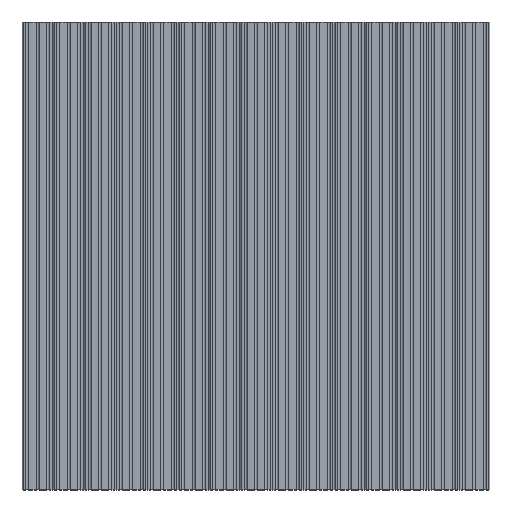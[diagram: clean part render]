
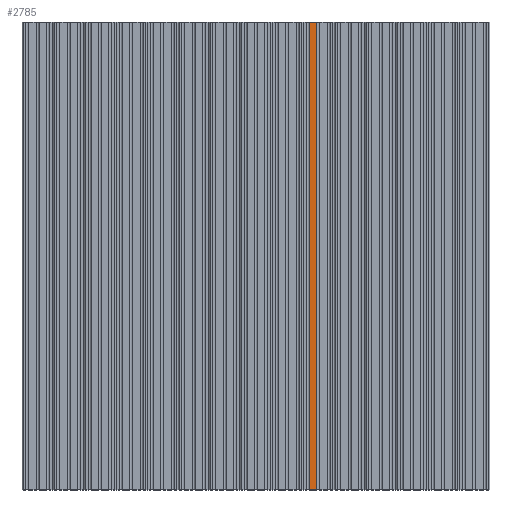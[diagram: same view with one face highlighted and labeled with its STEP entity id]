
A CAD part, top view. The second image highlights one B-rep face of the part: STEP entity #2785.
In plain terms, the highlighted planar face has unit normal (0, 0, 1).
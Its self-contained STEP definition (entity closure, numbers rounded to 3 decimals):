
#2785=ADVANCED_FACE('',(#3355),#3103,.T.);
#3103=PLANE('',#8780);
#3355=FACE_OUTER_BOUND('',#3685,.T.);
#3685=EDGE_LOOP('',(#4211,#4212,#4213,#4214));
#4211=ORIENTED_EDGE('',*,*,#6491,.F.);
#4212=ORIENTED_EDGE('',*,*,#6492,.F.);
#4213=ORIENTED_EDGE('',*,*,#6493,.T.);
#4214=ORIENTED_EDGE('',*,*,#6494,.T.);
#5851=VERTEX_POINT('',#11210);
#5852=VERTEX_POINT('',#11211);
#5853=VERTEX_POINT('',#11213);
#5854=VERTEX_POINT('',#11215);
#6491=EDGE_CURVE('',#5851,#5852,#7367,.T.);
#6492=EDGE_CURVE('',#5853,#5851,#7368,.T.);
#6493=EDGE_CURVE('',#5853,#5854,#7369,.T.);
#6494=EDGE_CURVE('',#5854,#5852,#7370,.T.);
#7367=LINE('',#11209,#8087);
#7368=LINE('',#11212,#8088);
#7369=LINE('',#11214,#8089);
#7370=LINE('',#11216,#8090);
#8087=VECTOR('',#9456,1.);
#8088=VECTOR('',#9457,1.);
#8089=VECTOR('',#9458,1.);
#8090=VECTOR('',#9459,1.);
#8780=AXIS2_PLACEMENT_3D('',#11217,#9460,#9461);
#9456=DIRECTION('',(-1.,0.,0.));
#9457=DIRECTION('',(0.,-1.,0.));
#9458=DIRECTION('',(-1.,0.,0.));
#9459=DIRECTION('',(0.,-1.,0.));
#9460=DIRECTION('',(0.,0.,1.));
#9461=DIRECTION('',(1.,0.,0.));
#11209=CARTESIAN_POINT('',(117.25,0.,0.));
#11210=CARTESIAN_POINT('',(117.25,0.,0.));
#11211=CARTESIAN_POINT('',(102.75,0.,0.));
#11212=CARTESIAN_POINT('',(117.25,900.,0.));
#11213=CARTESIAN_POINT('',(117.25,900.,0.));
#11214=CARTESIAN_POINT('',(117.25,900.,0.));
#11215=CARTESIAN_POINT('',(102.75,900.,0.));
#11216=CARTESIAN_POINT('',(102.75,900.,0.));
#11217=CARTESIAN_POINT('',(117.25,900.,0.));
